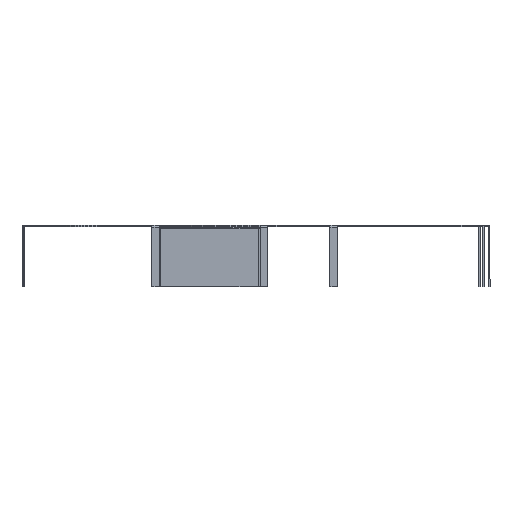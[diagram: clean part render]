
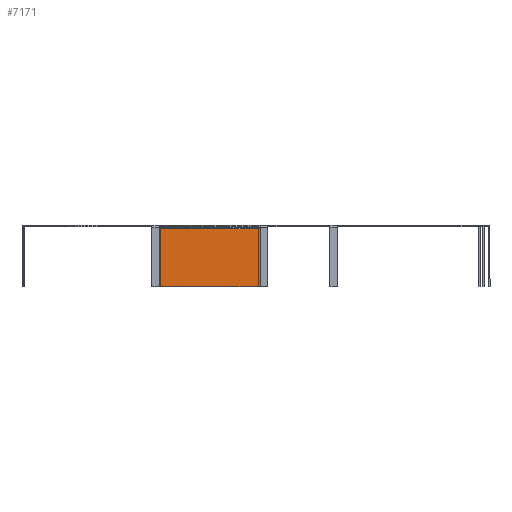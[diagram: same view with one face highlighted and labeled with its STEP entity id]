
A CAD part, left-side view. The second image highlights one B-rep face of the part: STEP entity #7171.
In plain terms, the highlighted planar face has unit normal (-1, 0, 0).
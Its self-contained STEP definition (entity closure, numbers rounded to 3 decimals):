
#94 = ORIENTED_EDGE ( 'NONE', *, *, #3450, .T. ) ;
#157 = VERTEX_POINT ( 'NONE', #490 ) ;
#317 = DIRECTION ( 'NONE',  ( 0., 0., -1. ) ) ;
#490 = CARTESIAN_POINT ( 'NONE',  ( -27.5, 2.5, -65. ) ) ;
#620 = VECTOR ( 'NONE', #1210, 1000. ) ;
#681 = DIRECTION ( 'NONE',  ( 0., 0., -1. ) ) ;
#948 = ORIENTED_EDGE ( 'NONE', *, *, #8380, .F. ) ;
#1033 = DIRECTION ( 'NONE',  ( 0., 1., 0. ) ) ;
#1210 = DIRECTION ( 'NONE',  ( 0., 1., 0. ) ) ;
#1357 = LINE ( 'NONE', #2015, #620 ) ;
#2015 = CARTESIAN_POINT ( 'NONE',  ( -27.5, 2.5, -65. ) ) ;
#2163 = ORIENTED_EDGE ( 'NONE', *, *, #7574, .F. ) ;
#2902 = PLANE ( 'NONE',  #5937 ) ;
#3020 = VECTOR ( 'NONE', #317, 1000. ) ;
#3450 = EDGE_CURVE ( 'NONE', #4589, #3963, #9832, .T. ) ;
#3963 = VERTEX_POINT ( 'NONE', #9439 ) ;
#4456 = DIRECTION ( 'NONE',  ( 0., 0., -1. ) ) ;
#4589 = VERTEX_POINT ( 'NONE', #7959 ) ;
#4735 = EDGE_CURVE ( 'NONE', #6684, #4589, #8022, .T. ) ;
#5224 = CARTESIAN_POINT ( 'NONE',  ( -27.5, 78., 715. ) ) ;
#5291 = FACE_OUTER_BOUND ( 'NONE', #7308, .T. ) ;
#5905 = CARTESIAN_POINT ( 'NONE',  ( -27.5, 78., 715. ) ) ;
#5937 = AXIS2_PLACEMENT_3D ( 'NONE', #5905, #5953, #681 ) ;
#5953 = DIRECTION ( 'NONE',  ( 1., 0., 0. ) ) ;
#6090 = ORIENTED_EDGE ( 'NONE', *, *, #4735, .T. ) ;
#6495 = LINE ( 'NONE', #9694, #3020 ) ;
#6684 = VERTEX_POINT ( 'NONE', #9288 ) ;
#7171 = ADVANCED_FACE ( 'NONE', ( #5291 ), #2902, .F. ) ;
#7308 = EDGE_LOOP ( 'NONE', ( #2163, #6090, #94, #948 ) ) ;
#7574 = EDGE_CURVE ( 'NONE', #6684, #157, #6495, .T. ) ;
#7866 = CARTESIAN_POINT ( 'NONE',  ( -27.5, 2.5, 65. ) ) ;
#7959 = CARTESIAN_POINT ( 'NONE',  ( -27.5, 78., 65. ) ) ;
#8022 = LINE ( 'NONE', #7866, #9969 ) ;
#8380 = EDGE_CURVE ( 'NONE', #157, #3963, #1357, .T. ) ;
#8953 = VECTOR ( 'NONE', #4456, 1000. ) ;
#9288 = CARTESIAN_POINT ( 'NONE',  ( -27.5, 2.5, 65. ) ) ;
#9439 = CARTESIAN_POINT ( 'NONE',  ( -27.5, 78., -65. ) ) ;
#9694 = CARTESIAN_POINT ( 'NONE',  ( -27.5, 2.5, 715. ) ) ;
#9832 = LINE ( 'NONE', #5224, #8953 ) ;
#9969 = VECTOR ( 'NONE', #1033, 1000. ) ;
